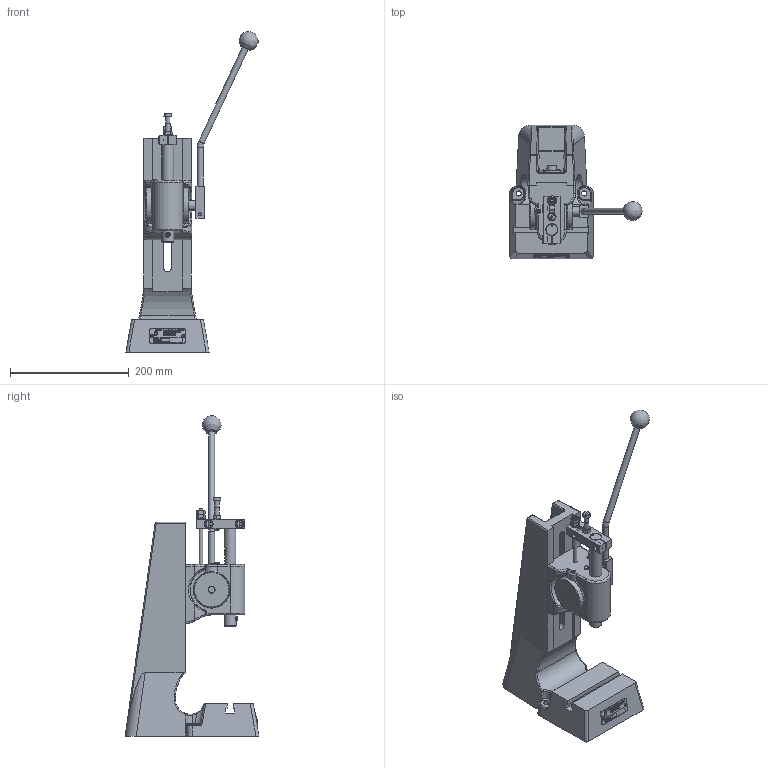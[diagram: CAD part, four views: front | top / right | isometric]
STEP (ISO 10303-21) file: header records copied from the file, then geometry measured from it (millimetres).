
FILE_DESCRIPTION(/* description */ ('Pressenständer 200'),/* implementation_level */ '2;1');
FILE_NAME(/* name */ 'B:\02_CAD_oeffentlich\CAD_3D_oeffentlich_step\Kniehebel Presse\HP_200_Z.stp',/* time_stamp */ '2017-01-30T07:23:47+01:00',/* author */ ('Finsterle'),/* organization */ (''),/* preprocessor_version */ 'ST-DEVELOPER v16.1',/* originating_system */ 'Autodesk Inventor 2016',/* authorisation */ '');
FILE_SCHEMA (('AUTOMOTIVE_DESIGN { 1 0 10303 214 3 1 1 }'));
Products named in the file (5): HBF-000867; HBF-000719_V; HBF-000314; HBF-000315; HBF-000869_V
Assembly tree (5 placements, depth 2):
  HBF-000869_V
    HBF-000867
    HBF-000719_V
    HBF-000314
    HBF-000315  x2
Bounding box: 222.41 x 225.05 x 539.08 mm (x, y, z)
Volume: 2465847.1 mm3; surface area: 324544.2 mm2
Topology: 6 solids, 6 shells, 2668 faces, 7075 edges, 4656 vertices
Faces by surface type: plane 1453, bspline 955, cylinder 153, cone 53, torus 40, sphere 14
Full cylindrical faces by diameter (mm): 2.8 x1, 3 x4, 3.15 x1, 3.3 x2, 4.917 x1, 6 x3, 6.1 x1, 6.5 x2, 6.6 x1, 6.647 x5, 7.233 x1, 8 x6, 8.376 x1, 8.4 x1, 8.5 x4, 9.98 x2, 10 x6, 10.5 x1, 11 x2, 12 x1, 13 x2, 15 x2, 16 x4, 20 x2, 28 x2, 60 x2
Entity records: 94303 total; most frequent: CARTESIAN_POINT 32790, ORIENTED_EDGE 13788, DIRECTION 8805, EDGE_CURVE 6894, VERTEX_POINT 4606, LINE 4391, VECTOR 4391, EDGE_LOOP 3046
